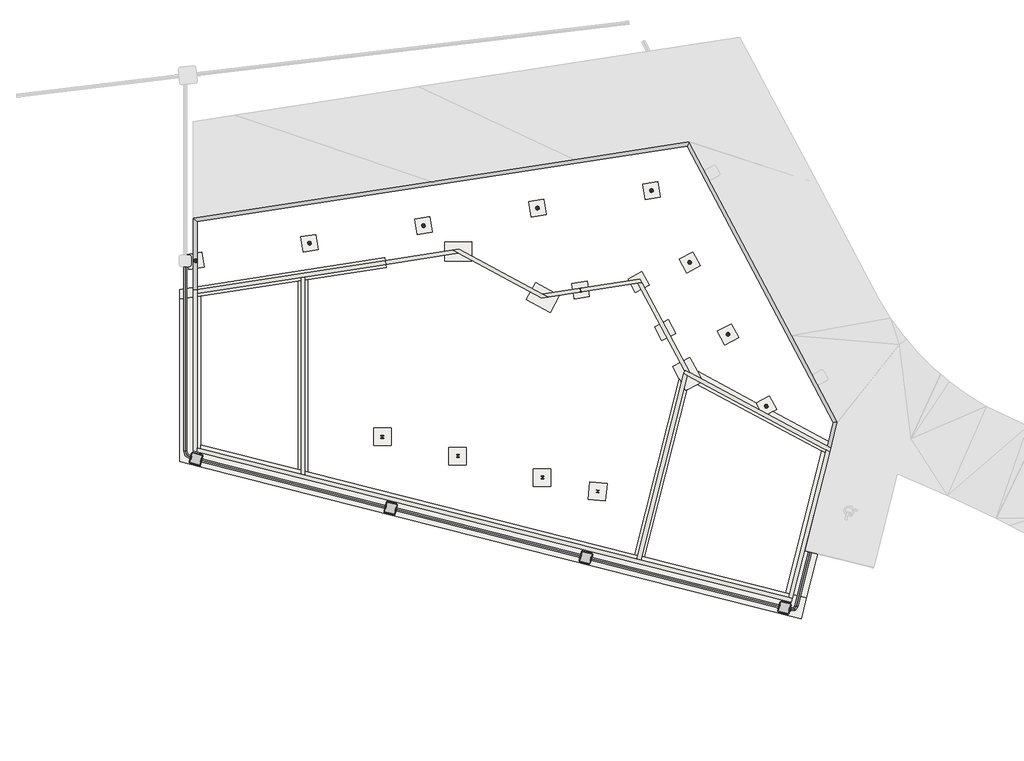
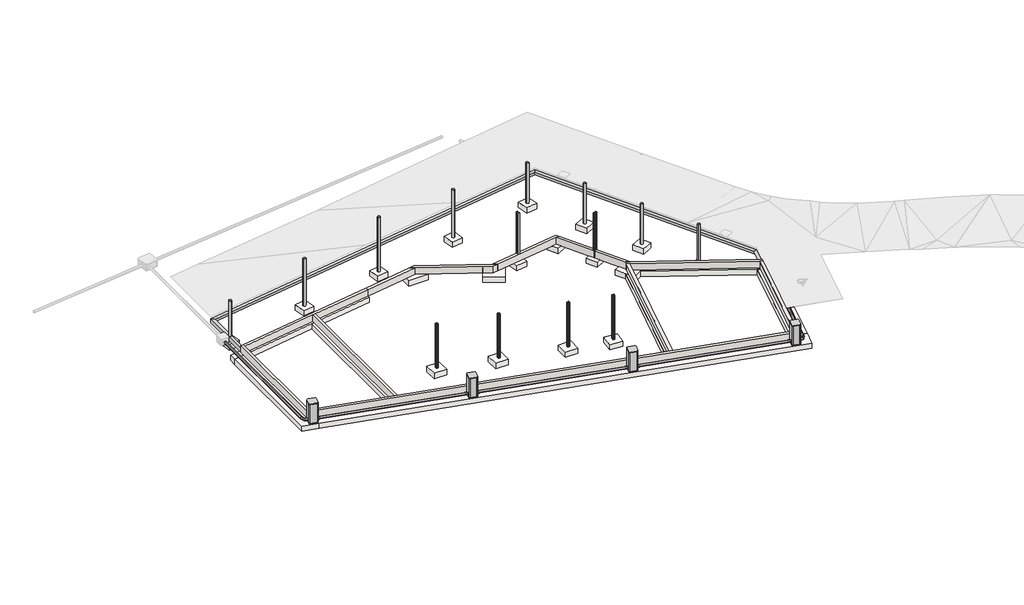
# One storey, part 1 of 2: 18 slabs, 14 columns, 11 walls, 7 footings, 6 pipe segments, 4 valves, 3 duct fittings, 2 proxies.
"""IFC4 building model written with IfcOpenShell, lengths in millimetres."""

from ifc_helpers import new_model, si_unit, point, frame, frame_2d, origin, place, context, project, spatial, polyline, circle_curve, trimmed, segment, composite_curve, outline, extrude, faceted_brep, transform, mapped, element, save
from components import he140a_3b6efd71, poteau_rond_193_7x4_mm_0e9dcb76, poteau_rond_193_7x4_mm_2a994011, poteau_rond_193_7x4_mm_6d145c25, poteau_rond_193_7x4_mm_c46b126e, poteau_rond_193_7x4_mm_b0dfd00d, poteau_rond_193_7x4_mm_703e1262, poteau_rond_193_7x4_mm_9448209f, poteau_rond_193_7x4_mm_29ad06c1, coude_45_coude_45_f8eaf21e, coude_45_coude_45_6452feed, regard_ep_600x600_4da5fc17

model = new_model("IFC4")

# Units and contexts
model_context = context("Model", 3, world=origin())
ifc_project = project(units=[si_unit("LENGTHUNIT", "METRE", prefix="MILLI")], contexts=[model_context])

# Site, building, storey
site = spatial("IfcSite", under=ifc_project)
building = spatial("IfcBuilding", under=site)
storey = spatial("IfcBuildingStorey", under=building, Name="-1 Soubassement", Elevation=869500.0)

# Proxies
placement = place(None, origin())
element("IfcBuildingElementProxy", 1, Name="Be1", ObjectType="Be1", at=placement, inside=storey, context=model_context, shape_type="Brep", body=[
    faceted_brep([(44960.4575686, 17870.5636973, 869800.0), (44960.4575686, 17870.5636973, 869500.0), (19451.6644129, 13942.3479728, 869500.0), (19451.6644129, 13942.3479728, 869800.0), (44850.0979295, 17651.2113739, 869800.0), (19651.6644129, 13770.7893496, 869800.0), (44915.4424526, 17781.0910391, 869500.0), (19533.2433602, 13872.3701133, 869500.0), (52570.9656414, 3454.3381962, 869500.0), (52570.9656414, 3454.3381962, 869800.0), (52358.19355, 3428.9809375, 869800.0), (52484.1770252, 3443.9951039, 869500.0), (19451.6644129, 10255.6951004, 869500.0), (19533.2433602, 10255.6951004, 869500.0), (19651.6644129, 10255.6951004, 869800.0), (19451.6644129, 10255.6951004, 869800.0)], [[[0, 1, 2, 3]], [[4, 0, 3, 5]], [[6, 4, 5, 7]], [[1, 6, 7, 2]], [[8, 9, 10, 11]], [[9, 8, 1, 0]], [[10, 9, 0, 4]], [[11, 10, 4, 6]], [[8, 11, 6, 1]], [[12, 13, 14, 15]], [[3, 2, 12, 15]], [[5, 3, 15, 14]], [[7, 5, 14, 13]], [[2, 7, 13, 12]]]),
])
element("IfcBuildingElementProxy", 2, Name="Be1", ObjectType="Be1", at=placement, inside=storey, context=model_context, shape_type="Brep", body=[
    faceted_brep([(52231.1524024, 2115.1175773, 869500.0), (52231.1524024, 2115.1175773, 869800.0), (52037.2956754, 2164.3066963, 869800.0), (52152.0792638, 2135.1815601, 869500.0), (52570.9656414, 3454.3381962, 869500.0), (52484.1770252, 3443.9951039, 869500.0), (52358.19355, 3428.9809375, 869800.0), (52570.9656414, 3454.3381962, 869800.0)], [[[0, 1, 2, 3]], [[4, 5, 6, 7]], [[1, 0, 4, 7]], [[2, 1, 7, 6]], [[3, 2, 6, 5]], [[0, 3, 5, 4]]]),
])

# Columns
he140a_shape = he140a_3b6efd71(model_context)
element("IfcColumn", 3, ObjectType="H-Poutrelles-Poteau : HE140A", at=placement, inside=storey, context=model_context, shape_type="MappedRepresentation", body=[
    mapped(he140a_shape, transform((29175.6644129, 2696.782972, 0.0), x_axis=(1.0, 0.0, 0.0), y_axis=(0.0, 1.0, 0.0), z_axis=(0.0, 0.0, 1.0))),
])
element("IfcColumn", 4, ObjectType="H-Poutrelles-Poteau : HE140A", at=placement, inside=storey, context=model_context, shape_type="MappedRepresentation", body=[
    mapped(he140a_shape, transform((33060.1448853, 1717.4801284, 0.0), x_axis=(1.0, 0.0, 0.0), y_axis=(0.0, 1.0, 0.0), z_axis=(0.0, 0.0, 1.0))),
])
element("IfcColumn", 5, ObjectType="H-Poutrelles-Poteau : HE140A", at=placement, inside=storey, context=model_context, shape_type="MappedRepresentation", body=[
    mapped(he140a_shape, transform((37414.7284051, 613.1844085, 0.0), x_axis=(1.0, 0.0, 0.0), y_axis=(0.0, 1.0, 0.0), z_axis=(0.0, 0.0, 1.0))),
])
element("IfcColumn", 6, ObjectType="H-Poutrelles-Poteau : HE140A", at=placement, inside=storey, context=model_context, shape_type="MappedRepresentation", body=[
    mapped(he140a_shape, transform((40243.2309652, -105.9787095, 0.0), x_axis=(0.9947332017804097, -0.10249808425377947, 0.0), y_axis=(0.10249808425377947, 0.9947332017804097, 0.0), z_axis=(0.0, 0.0, 1.0))),
])
element("IfcColumn", 7, ObjectType="Poteau IPE : IPE200", at=placement, inside=storey, context=model_context, shape_type="SweptSolid", body=[
    extrude(outline(composite_curve([segment(polyline([(43817.5618656, 8186.294655), (43810.0568111, 8182.3041467), (43793.5314121, 8213.3839019)]), True, "CONTINUOUS"), segment(trimmed(circle_curve(frame_2d((43782.936041, 8207.7502432)), 12.0), [point((43793.5314121, 8213.3839019))], [point((43777.3023822, 8218.3456143))], True, "CARTESIAN"), True, "CONTINUOUS"), segment(polyline([(43777.3023822, 8218.3456143), (43636.9137149, 8143.6996358)]), True, "CONTINUOUS"), segment(trimmed(circle_curve(frame_2d((43642.5473737, 8133.1042647)), 12.0), [point((43636.9137149, 8143.6996358))], [point((43631.9520026, 8127.470606))], True, "CARTESIAN"), True, "CONTINUOUS"), segment(polyline([(43631.9520026, 8127.470606), (43648.4774016, 8096.3908507), (43640.972347, 8092.4003424), (43594.0251908, 8180.6951017), (43601.5302453, 8184.68561), (43618.0556443, 8153.6058547)]), True, "CONTINUOUS"), segment(trimmed(circle_curve(frame_2d((43628.6510154, 8159.2395135)), 12.0), [point((43618.0556443, 8153.6058547))], [point((43634.2846742, 8148.6441423))], True, "CARTESIAN"), True, "CONTINUOUS"), segment(polyline([(43634.2846742, 8148.6441423), (43774.6733415, 8223.2901208)]), True, "CONTINUOUS"), segment(trimmed(circle_curve(frame_2d((43769.0396827, 8233.8854919)), 12.0), [point((43774.6733415, 8223.2901208))], [point((43779.6350538, 8239.5191507))], True, "CARTESIAN"), True, "CONTINUOUS"), segment(polyline([(43779.6350538, 8239.5191507), (43763.1096548, 8270.598906), (43770.6147093, 8274.5894142), (43817.5618656, 8186.294655)]), True, "CONTINUOUS")], self_intersect=False)), frame((0.0, 0.0, 869500.0), z_axis=(0.0, 0.0, 1.0), x_axis=(1.0, 0.0, 0.0)), (0.0, 0.0, 1.0), 3383.9911035),
])
element("IfcColumn", 8, ObjectType="Poteau IPE : IPE200", at=placement, inside=storey, context=model_context, shape_type="SweptSolid", body=[
    extrude(outline(composite_curve([segment(polyline([(39397.6475726, 10354.8249676), (39398.9424216, 10346.4241721), (39364.1532447, 10341.0619739)]), True, "CONTINUOUS"), segment(trimmed(circle_curve(frame_2d((39365.9812668, 10329.2020272)), 12.0), [point((39364.1532447, 10341.0619739))], [point((39354.1213201, 10327.3740051))], True, "CARTESIAN"), True, "CONTINUOUS"), segment(polyline([(39354.1213201, 10327.3740051), (39378.3426129, 10170.2297116)]), True, "CONTINUOUS"), segment(trimmed(circle_curve(frame_2d((39390.2025596, 10172.0577337)), 12.0), [point((39378.3426129, 10170.2297116))], [point((39392.0305817, 10160.1977871))], True, "CARTESIAN"), True, "CONTINUOUS"), segment(polyline([(39392.0305817, 10160.1977871), (39426.8197586, 10165.5599852), (39428.1146076, 10157.1591896), (39329.2817186, 10141.9256722), (39327.9868696, 10150.3264677), (39362.7760465, 10155.6886659)]), True, "CONTINUOUS"), segment(trimmed(circle_curve(frame_2d((39360.9480244, 10167.5486126)), 12.0), [point((39362.7760465, 10155.6886659))], [point((39372.8079711, 10169.3766347))], True, "CARTESIAN"), True, "CONTINUOUS"), segment(polyline([(39372.8079711, 10169.3766347), (39348.5866783, 10326.5209281)]), True, "CONTINUOUS"), segment(trimmed(circle_curve(frame_2d((39336.7267316, 10324.692906)), 12.0), [point((39348.5866783, 10326.5209281))], [point((39334.8987095, 10336.5528527))], True, "CARTESIAN"), True, "CONTINUOUS"), segment(polyline([(39334.8987095, 10336.5528527), (39300.1095326, 10331.1906546), (39298.8146836, 10339.5914501), (39397.6475726, 10354.8249676)]), True, "CONTINUOUS")], self_intersect=False)), frame((0.0, 0.0, 869500.0), z_axis=(0.0, 0.0, 1.0), x_axis=(1.0, 0.0, 0.0)), (0.0, 0.0, 1.0), 3665.7781761),
])
poteau_rond_193_7x4_mm_shape = poteau_rond_193_7x4_mm_0e9dcb76(model_context)
element("IfcColumn", 9, ObjectType="Poteau RO (EN 10219-2) : Poteau rond 193.7x4 mm", at=placement, inside=storey, context=model_context, shape_type="MappedRepresentation", body=[
    mapped(poteau_rond_193_7x4_mm_shape, transform((31287.7222046, 13560.6335932, 0.0), x_axis=(0.9883288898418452, 0.15233517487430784, 0.0), y_axis=(-0.15233517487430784, 0.9883288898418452, 0.0), z_axis=(0.0, 0.0, 1.0))),
])
poteau_rond_193_7x4_mm_2_shape = poteau_rond_193_7x4_mm_2a994011(model_context)
element("IfcColumn", 10, ObjectType="Poteau RO (EN 10219-2) : Poteau rond 193.7x4 mm", at=placement, inside=storey, context=model_context, shape_type="MappedRepresentation", body=[
    mapped(poteau_rond_193_7x4_mm_2_shape, transform((37146.2584628, 14463.6337529, 0.0), x_axis=(0.9883288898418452, 0.15233517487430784, 0.0), y_axis=(-0.15233517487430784, 0.9883288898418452, 0.0), z_axis=(0.0, 0.0, 1.0))),
])
poteau_rond_193_7x4_mm_3_shape = poteau_rond_193_7x4_mm_6d145c25(model_context)
element("IfcColumn", 11, ObjectType="Poteau RO (EN 10219-2) : Poteau rond 193.7x4 mm", at=placement, inside=storey, context=model_context, shape_type="MappedRepresentation", body=[
    mapped(poteau_rond_193_7x4_mm_3_shape, transform((25429.1859465, 12657.6334334, 0.0), x_axis=(0.9883288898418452, 0.15233517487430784, 0.0), y_axis=(-0.15233517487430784, 0.9883288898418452, 0.0), z_axis=(0.0, 0.0, 1.0))),
])
poteau_rond_193_7x4_mm_4_shape = poteau_rond_193_7x4_mm_c46b126e(model_context)
element("IfcColumn", 12, ObjectType="Poteau RO (EN 10219-2) : Poteau rond 193.7x4 mm", at=placement, inside=storey, context=model_context, shape_type="MappedRepresentation", body=[
    mapped(poteau_rond_193_7x4_mm_4_shape, transform((19570.6496883, 11754.6332737, 0.0), x_axis=(0.9883288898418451, 0.1523351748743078, 0.0), y_axis=(-0.1523351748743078, 0.9883288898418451, 0.0), z_axis=(0.0, 0.0, 1.0))),
])
poteau_rond_193_7x4_mm_5_shape = poteau_rond_193_7x4_mm_b0dfd00d(model_context)
element("IfcColumn", 13, ObjectType="Poteau RO (EN 10219-2) : Poteau rond 193.7x4 mm", at=placement, inside=storey, context=model_context, shape_type="MappedRepresentation", body=[
    mapped(poteau_rond_193_7x4_mm_5_shape, transform((43004.678691, 15367.3866989, 0.0), x_axis=(0.9883288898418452, 0.15233517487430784, 0.0), y_axis=(-0.15233517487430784, 0.9883288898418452, 0.0), z_axis=(0.0, 0.0, 1.0))),
])
poteau_rond_193_7x4_mm_6_shape = poteau_rond_193_7x4_mm_703e1262(model_context)
element("IfcColumn", 14, ObjectType="Poteau RO (EN 10219-2) : Poteau rond 193.7x4 mm", at=placement, inside=storey, context=model_context, shape_type="MappedRepresentation", body=[
    mapped(poteau_rond_193_7x4_mm_6_shape, transform((44975.6424285, 11669.9466679, 0.0), x_axis=(0.8829475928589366, 0.46947156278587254, 0.0), y_axis=(-0.46947156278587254, 0.8829475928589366, 0.0), z_axis=(0.0, 0.0, 1.0))),
])
poteau_rond_193_7x4_mm_7_shape = poteau_rond_193_7x4_mm_9448209f(model_context)
element("IfcColumn", 15, ObjectType="Poteau RO (EN 10219-2) : Poteau rond 193.7x4 mm", at=placement, inside=storey, context=model_context, shape_type="MappedRepresentation", body=[
    mapped(poteau_rond_193_7x4_mm_7_shape, transform((48909.773939, 4270.9214179, 0.0), x_axis=(0.8829475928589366, 0.46947156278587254, 0.0), y_axis=(-0.46947156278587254, 0.8829475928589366, 0.0), z_axis=(0.0, 0.0, 1.0))),
])
poteau_rond_193_7x4_mm_8_shape = poteau_rond_193_7x4_mm_29ad06c1(model_context)
element("IfcColumn", 16, ObjectType="Poteau RO (EN 10219-2) : Poteau rond 193.7x4 mm", at=placement, inside=storey, context=model_context, shape_type="MappedRepresentation", body=[
    mapped(poteau_rond_193_7x4_mm_8_shape, transform((46942.7081837, 7970.4340429, 0.0), x_axis=(0.8829475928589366, 0.46947156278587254, 0.0), y_axis=(-0.46947156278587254, 0.8829475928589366, 0.0), z_axis=(0.0, 0.0, 1.0))),
])

# Duct fittings
coude_45_coude_45_shape = coude_45_coude_45_f8eaf21e(model_context)
element("IfcDuctFitting", 17, ObjectType="coude 45 : Coude 45", at=placement, inside=storey, context=model_context, shape_type="MappedRepresentation", body=[
    mapped(coude_45_coude_45_shape, transform((50314.3966614, -6492.3867088, 869680.0), x_axis=(0.9692836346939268, -0.24594559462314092, 0.0), y_axis=(0.24594559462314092, 0.9692836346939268, 0.0), z_axis=(0.0, 0.0, 1.0))),
])
element("IfcDuctFitting", 18, ObjectType="coude 45 : Coude 45", at=placement, inside=storey, context=model_context, shape_type="MappedRepresentation", body=[
    mapped(coude_45_coude_45_shape, transform((50670.329062, -6280.5259019, 869680.0), x_axis=(0.8592968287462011, 0.5114772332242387, 0.0), y_axis=(-0.5114772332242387, 0.8592968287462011, 0.0), z_axis=(0.0, 0.0, 1.0))),
])
coude_45_coude_45_2_shape = coude_45_coude_45_6452feed(model_context)
element("IfcDuctFitting", 19, ObjectType="coude 45 : Coude 45", at=placement, inside=storey, context=model_context, shape_type="MappedRepresentation", body=[
    mapped(coude_45_coude_45_2_shape, transform((18895.9707802, 1587.4783835, 869680.0), x_axis=(0.0, -1.0, 0.0), y_axis=(1.0, 0.0, 0.0), z_axis=(0.0, 0.0, 1.0))),
])

# Footings
element("IfcFooting", 20, ObjectType="SF1", at=placement, inside=storey, context=model_context, shape_type="SweptSolid", body=[
    extrude(outline(polyline([(25346.5091129, 890.7809716), (24846.5091129, 1017.2595383), (24846.5091129, 10720.3057169), (25346.5091129, 10797.3727623), (25346.5091129, 890.7809716)])), frame((0.0, 0.0, 869100.0), z_axis=(0.0, 0.0, 1.0), x_axis=(1.0, 0.0, 0.0)), (0.0, 0.0, 1.0), 400.0),
])
element("IfcFooting", 21, ObjectType="SF1", at=placement, inside=storey, context=model_context, shape_type="SweptSolid", body=[
    extrude(outline(polyline([(42640.1594433, -3483.7712402), (42155.427213, -3361.1547648), (44446.4681549, 5667.949801), (44757.7704584, 5082.47532), (44822.4861687, 5116.8852735), (42640.1594433, -3483.7712402)])), frame((0.0, 0.0, 869100.0), z_axis=(0.0, 0.0, 1.0), x_axis=(1.0, 0.0, 0.0)), (0.0, 0.0, 1.0), 400.0),
])
element("IfcFooting", 22, ObjectType="SF1", at=placement, inside=storey, context=model_context, shape_type="Brep", body=[
    faceted_brep([(29290.7761581, 11911.223244, 869100.0), (29290.7761581, 11911.223244, 869500.0), (29366.9437455, 11417.0587991, 869500.0), (29366.9437455, 11417.0587991, 869100.0), (18751.6644129, 10286.786837, 869500.0), (18751.6644129, 9780.8823703, 869500.0), (19851.6644129, 9950.4298702, 869500.0), (24846.5091129, 10720.3057169, 869500.0), (25346.5091129, 10797.3727623, 869500.0), (18751.6644129, 10286.786837, 869100.0), (25346.5091129, 10797.3727623, 869100.0), (24846.5091129, 10720.3057169, 869100.0), (19851.6644129, 9950.4298702, 869100.0), (18751.6644129, 9780.8823703, 869100.0)], [[[0, 1, 2, 3]], [[1, 4, 5, 6, 7, 8, 2]], [[1, 0, 9, 4]], [[0, 3, 10, 11, 12, 13, 9]], [[3, 2, 8, 7, 6, 5, 13, 12, 11, 10]], [[5, 4, 9, 13]]]),
])
element("IfcFooting", 23, ObjectType="SF2", at=placement, inside=storey, context=model_context, shape_type="Brep", body=[
    faceted_brep([(18751.6644129, 1424.3466148, 869500.0), (19851.6644129, 1146.0937682, 869500.0), (19851.6644129, 2280.7411349, 869500.0), (19851.6644129, 9950.4298702, 869500.0), (18751.6644129, 9780.8823703, 869500.0), (19851.6644129, 1146.0937682, 869100.0), (19851.6644129, 2280.7411349, 869100.0), (19851.6644129, 9950.4298702, 869100.0), (18751.6644129, 1424.3466148, 869100.0), (18751.6644129, 9780.8823703, 869100.0)], [[[0, 1, 2, 3, 4]], [[1, 5, 6, 7, 3, 2]], [[5, 8, 9, 7, 6]], [[8, 0, 4, 9]], [[1, 0, 8, 5]], [[4, 3, 7, 9]]]),
])
element("IfcFooting", 24, ObjectType="SF2", at=placement, inside=storey, context=model_context, shape_type="Brep", body=[
    faceted_brep([(50705.4338069, -6658.5872891, 869500.0), (50975.9740341, -5592.3750027, 869500.0), (49909.5631274, -5322.6187568, 869500.0), (42640.1594433, -3483.7712402, 869500.0), (42155.427213, -3361.1547648, 869500.0), (25346.5091129, 890.7809716, 869500.0), (24846.5091129, 1017.2595383, 869500.0), (19851.6644129, 2280.7411349, 869500.0), (19851.6644129, 1146.0937682, 869500.0), (50705.4338069, -6658.5872891, 869100.0), (19851.6644129, 1146.0937682, 869100.0), (50975.9740341, -5592.3750027, 869100.0), (19851.6644129, 2280.7411349, 869100.0), (24846.5091129, 1017.2595383, 869100.0), (25346.5091129, 890.7809716, 869100.0), (42155.427213, -3361.1547648, 869100.0), (42640.1594433, -3483.7712402, 869100.0), (49909.5631274, -5322.6187568, 869100.0)], [[[0, 1, 2, 3, 4, 5, 6, 7, 8]], [[9, 0, 8, 10]], [[11, 9, 10, 12, 13, 14, 15, 16, 17]], [[1, 11, 17, 16, 15, 14, 13, 12, 7, 6, 5, 4, 3, 2]], [[1, 0, 9, 11]], [[8, 7, 12, 10]]]),
])
element("IfcFooting", 25, ObjectType="SF2", at=placement, inside=storey, context=model_context, shape_type="SweptSolid", body=[
    extrude(outline(polyline([(51760.1839718, 1970.7686334), (52758.9427337, 1434.3919712), (50975.9740341, -5592.3750027), (49909.5631274, -5322.6187568), (51760.1839718, 1970.7686334)])), frame((0.0, 0.0, 869100.0), z_axis=(0.0, 0.0, 1.0), x_axis=(1.0, 0.0, 0.0)), (0.0, 0.0, 1.0), 400.0),
])
element("IfcFooting", 26, ObjectType="SF3", at=placement, inside=storey, context=model_context, shape_type="Brep", body=[
    faceted_brep([(52758.9427337, 1434.3919712, 869500.0), (52911.0276628, 2033.766126, 869500.0), (49251.0306937, 3999.3428327, 869500.0), (48744.383527, 3729.9537556, 869500.0), (48368.8062767, 4436.3118299, 869500.0), (48403.2610956, 4454.6317821, 869500.0), (45353.2321152, 6092.6292911, 869500.0), (45640.7180513, 5551.9468828, 869500.0), (45364.9196189, 5405.302255, 869500.0), (51760.1839718, 1970.7686334, 869500.0), (52911.0276628, 2033.766126, 869100.0), (49251.0306937, 3999.3428327, 869100.0), (48403.2610956, 4454.6317821, 869100.0), (45353.2321152, 6092.6292911, 869100.0), (52758.9427337, 1434.3919712, 869100.0), (51760.1839718, 1970.7686334, 869100.0), (45364.9196189, 5405.302255, 869100.0), (45640.7180513, 5551.9468828, 869100.0), (48368.8062767, 4436.3118299, 869100.0), (48744.383527, 3729.9537556, 869100.0)], [[[0, 1, 2, 3, 4, 5, 6, 7, 8, 9]], [[1, 10, 11, 2]], [[5, 12, 13, 6]], [[10, 14, 15, 16, 17, 13, 12, 18, 19, 11]], [[14, 0, 9, 8, 16, 15]], [[1, 0, 14, 10]], [[4, 18, 12, 5]], [[18, 4, 3, 19]], [[19, 3, 2, 11]], [[7, 17, 16, 8]], [[17, 7, 6, 13]]]),
])

# Pipe segments
element("IfcPipeSegment", 27, ObjectType="Canalisation EP", at=placement, inside=storey, context=model_context, shape_type="SweptSolid", body=[
    extrude(outline(composite_curve([segment(trimmed(circle_curve(frame_2d((869680.0, 19044.8996541)), 80.0), [point((869680.0, 18964.8996541))], [point((869600.0, 19044.8996541))], False, "CARTESIAN"), True, "CONTINUOUS"), segment(trimmed(circle_curve(frame_2d((869680.0, 19044.8996541)), 80.0), [point((869600.0, 19044.8996541))], [point((869680.0, 19124.8996541))], False, "CARTESIAN"), True, "CONTINUOUS"), segment(trimmed(circle_curve(frame_2d((869680.0, 19044.8996541)), 80.0), [point((869680.0, 19124.8996541))], [point((869760.0, 19044.8996541))], False, "CARTESIAN"), True, "CONTINUOUS"), segment(trimmed(circle_curve(frame_2d((869680.0, 19044.8996541)), 80.0), [point((869760.0, 19044.8996541))], [point((869680.0, 18964.8996541))], False, "CARTESIAN"), True, "CONTINUOUS")], self_intersect=False)), frame((0.0, 1978.1211967, 0.0), z_axis=(0.0, 1.0, 0.0), x_axis=(0.0, 0.0, 1.0)), (0.0, 0.0, 1.0), 9476.512077),
])
element("IfcPipeSegment", 28, ObjectType="Canalisation EP", at=placement, inside=storey, context=model_context, shape_type="SweptSolid", body=[
    extrude(outline(composite_curve([segment(trimmed(circle_curve(frame_2d((0.0, -80.0)), 80.0), [point((-80.0, -80.0))], [point((0.0, 0.0))], False, "CARTESIAN"), True, "CONTINUOUS"), segment(trimmed(circle_curve(frame_2d((0.0, -80.0)), 80.0), [point((0.0, 0.0))], [point((80.0, -80.0))], False, "CARTESIAN"), True, "CONTINUOUS"), segment(trimmed(circle_curve(frame_2d((0.0, -80.0)), 80.0), [point((80.0, -80.0))], [point((0.0, -160.0))], False, "CARTESIAN"), True, "CONTINUOUS"), segment(trimmed(circle_curve(frame_2d((0.0, -80.0)), 80.0), [point((0.0, -160.0))], [point((-80.0, -80.0))], False, "CARTESIAN"), True, "CONTINUOUS")], self_intersect=False)), frame((39346.8459058, -3431.3414769, 869600.0), z_axis=(-0.9694641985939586, 0.24523288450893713, 0.0), x_axis=(0.24523288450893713, 0.9694641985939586, 0.0)), (0.0, 0.0, 1.0), 9746.1142553),
])
element("IfcPipeSegment", 29, ObjectType="Canalisation EP", at=placement, inside=storey, context=model_context, shape_type="SweptSolid", body=[
    extrude(outline(composite_curve([segment(trimmed(circle_curve(frame_2d((0.0, -80.0)), 80.0), [point((-80.0, -80.0))], [point((0.0, 0.0))], False, "CARTESIAN"), True, "CONTINUOUS"), segment(trimmed(circle_curve(frame_2d((0.0, -80.0)), 80.0), [point((0.0, 0.0))], [point((80.0, -80.0))], False, "CARTESIAN"), True, "CONTINUOUS"), segment(trimmed(circle_curve(frame_2d((0.0, -80.0)), 80.0), [point((80.0, -80.0))], [point((0.0, -160.0))], False, "CARTESIAN"), True, "CONTINUOUS"), segment(trimmed(circle_curve(frame_2d((0.0, -80.0)), 80.0), [point((0.0, -160.0))], [point((-80.0, -80.0))], False, "CARTESIAN"), True, "CONTINUOUS")], self_intersect=False)), frame((49552.9259505, -6013.0422272, 869600.0), z_axis=(-0.9694641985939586, 0.24523288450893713, 0.0), x_axis=(0.24523288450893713, 0.9694641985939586, 0.0)), (0.0, 0.0, 1.0), 9927.5471333),
])
element("IfcPipeSegment", 30, ObjectType="Canalisation EP", at=placement, inside=storey, context=model_context, shape_type="SweptSolid", body=[
    extrude(outline(composite_curve([segment(trimmed(circle_curve(frame_2d((0.0, -80.0)), 80.0), [point((-79.9999999, -80.0))], [point((0.0, 0.0))], False, "CARTESIAN"), True, "CONTINUOUS"), segment(trimmed(circle_curve(frame_2d((0.0, -80.0)), 80.0), [point((0.0, 0.0))], [point((80.0, -80.0))], False, "CARTESIAN"), True, "CONTINUOUS"), segment(trimmed(circle_curve(frame_2d((0.0, -80.0)), 80.0), [point((80.0, -80.0))], [point((0.0, -160.0))], False, "CARTESIAN"), True, "CONTINUOUS"), segment(trimmed(circle_curve(frame_2d((0.0, -80.0)), 80.0), [point((0.0, -160.0))], [point((-79.9999999, -80.0))], False, "CARTESIAN"), True, "CONTINUOUS")], self_intersect=False)), frame((50451.9821457, -6011.4527081, 869600.0), z_axis=(0.24594559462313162, 0.9692836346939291, 0.0), x_axis=(0.9692836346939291, -0.24594559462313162, 0.0)), (0.0, 0.0, 1.0), 9754.8031577),
])
element("IfcPipeSegment", 31, ObjectType="Canalisation EP", at=placement, inside=storey, context=model_context, shape_type="SweptSolid", body=[
    extrude(outline(composite_curve([segment(trimmed(circle_curve(frame_2d((0.0, -80.0)), 80.0), [point((-80.0, -80.0))], [point((0.0, 0.0))], False, "CARTESIAN"), True, "CONTINUOUS"), segment(trimmed(circle_curve(frame_2d((0.0, -80.0)), 80.0), [point((0.0, 0.0))], [point((80.0, -80.0))], False, "CARTESIAN"), True, "CONTINUOUS"), segment(trimmed(circle_curve(frame_2d((0.0, -80.0)), 80.0), [point((80.0, -80.0))], [point((0.0, -160.0))], False, "CARTESIAN"), True, "CONTINUOUS"), segment(trimmed(circle_curve(frame_2d((0.0, -80.0)), 80.0), [point((0.0, -160.0))], [point((-80.0, -80.0))], False, "CARTESIAN"), True, "CONTINUOUS")], self_intersect=False)), frame((50181.979428, -6172.1657916, 869600.0), z_axis=(-0.9694641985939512, 0.24523288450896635, 0.0), x_axis=(0.24523288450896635, 0.9694641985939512, 0.0)), (0.0, 0.0, 1.0), 48.8671562),
])
element("IfcPipeSegment", 32, ObjectType="Canalisation EP", at=placement, inside=storey, context=model_context, shape_type="SweptSolid", body=[
    extrude(outline(composite_curve([segment(trimmed(circle_curve(frame_2d((0.0, -80.0)), 80.0), [point((-80.0, -80.0))], [point((0.0, 0.0))], False, "CARTESIAN"), True, "CONTINUOUS"), segment(trimmed(circle_curve(frame_2d((0.0, -80.0)), 80.0), [point((0.0, 0.0))], [point((80.0, -80.0))], False, "CARTESIAN"), True, "CONTINUOUS"), segment(trimmed(circle_curve(frame_2d((0.0, -80.0)), 80.0), [point((80.0, -80.0))], [point((0.0, -160.0))], False, "CARTESIAN"), True, "CONTINUOUS"), segment(trimmed(circle_curve(frame_2d((0.0, -80.0)), 80.0), [point((0.0, -160.0))], [point((-80.0, -80.0))], False, "CARTESIAN"), True, "CONTINUOUS")], self_intersect=False)), frame((29315.9095174, -893.3249847, 869600.0), z_axis=(-0.9694641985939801, 0.2452328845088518, 0.0), x_axis=(0.2452328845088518, 0.9694641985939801, 0.0)), (0.0, 0.0, 1.0), 9720.0),
])

# Slabs
element("IfcSlab", 33, ObjectType="Base rectangulaire modifier : -M1-", at=placement, inside=storey, context=model_context, shape_type="SweptSolid", body=[
    extrude(outline(polyline([(25762.9084892, 13115.4707523), (25888.0560612, 12325.3200798), (25097.9053887, 12200.1725078), (24972.7578167, 12990.3231802), (25762.9084892, 13115.4707523)])), frame((0.0, 0.0, 869100.0), z_axis=(0.0, 0.0, 1.0), x_axis=(1.0, 0.0, 0.0)), (0.0, 0.0, 1.0), 400.0),
])
element("IfcSlab", 34, ObjectType="Base rectangulaire modifier : -M1-", at=placement, inside=storey, context=model_context, shape_type="SweptSolid", body=[
    extrude(outline(polyline([(31622.6657398, 14018.6591086), (31747.8133119, 13228.5084361), (30957.6626394, 13103.3608641), (30832.5150674, 13893.5115365), (31622.6657398, 14018.6591086)])), frame((0.0, 0.0, 869100.0), z_axis=(0.0, 0.0, 1.0), x_axis=(1.0, 0.0, 0.0)), (0.0, 0.0, 1.0), 400.0),
])
element("IfcSlab", 35, ObjectType="Base rectangulaire modifier : -M1-", at=placement, inside=storey, context=model_context, shape_type="SweptSolid", body=[
    extrude(outline(polyline([(37482.4229905, 14921.8474649), (37607.5705625, 14131.6967924), (36817.4198901, 14006.5492204), (36692.272318, 14796.6998928), (37482.4229905, 14921.8474649)])), frame((0.0, 0.0, 869100.0), z_axis=(0.0, 0.0, 1.0), x_axis=(1.0, 0.0, 0.0)), (0.0, 0.0, 1.0), 400.0),
])
element("IfcSlab", 36, ObjectType="Base rectangulaire modifier : -M1-", at=placement, inside=storey, context=model_context, shape_type="SweptSolid", body=[
    extrude(outline(polyline([(43342.1802412, 15825.0358212), (43467.3278132, 15034.8851487), (42677.1771407, 14909.7375767), (42552.0295687, 15699.8882491), (43342.1802412, 15825.0358212)])), frame((0.0, 0.0, 869100.0), z_axis=(0.0, 0.0, 1.0), x_axis=(1.0, 0.0, 0.0)), (0.0, 0.0, 1.0), 400.0),
])
element("IfcSlab", 37, ObjectType="Base rectangulaire modifier : -M1-", at=placement, inside=storey, context=model_context, shape_type="SweptSolid", body=[
    extrude(outline(polyline([(19903.1512385, 12212.282396), (20028.2988105, 11422.1317235), (19238.1481381, 11296.9841515), (19113.000566, 12087.1348239), (19903.1512385, 12212.282396)])), frame((0.0, 0.0, 869100.0), z_axis=(0.0, 0.0, 1.0), x_axis=(1.0, 0.0, 0.0)), (0.0, 0.0, 1.0), 400.0),
])
element("IfcSlab", 38, ObjectType="Base rectangulaire modifier : -M1-", at=placement, inside=storey, context=model_context, shape_type="SweptSolid", body=[
    extrude(outline(polyline([(45141.767519, 12209.5326008), (45517.3447692, 11503.1745265), (44810.9866949, 11127.5972763), (44435.4094447, 11833.9553506), (45141.767519, 12209.5326008)])), frame((0.0, 0.0, 869100.0), z_axis=(0.0, 0.0, 1.0), x_axis=(1.0, 0.0, 0.0)), (0.0, 0.0, 1.0), 400.0),
])
element("IfcSlab", 39, ObjectType="Base rectangulaire modifier : -M1-", at=placement, inside=storey, context=model_context, shape_type="SweptSolid", body=[
    extrude(outline(polyline([(47108.465935, 8510.7108405), (47484.0431852, 7804.3527662), (46777.6851109, 7428.775516), (46402.1078607, 8135.1335902), (47108.465935, 8510.7108405)])), frame((0.0, 0.0, 869100.0), z_axis=(0.0, 0.0, 1.0), x_axis=(1.0, 0.0, 0.0)), (0.0, 0.0, 1.0), 400.0),
])
element("IfcSlab", 40, ObjectType="Base rectangulaire modifier : -M1-", at=placement, inside=storey, context=model_context, shape_type="Brep", body=[
    faceted_brep([(49075.164351, 4811.8890801, 869500.0), (48403.2610956, 4454.6317821, 869500.0), (48368.8062767, 4436.3118299, 869500.0), (48744.383527, 3729.9537556, 869500.0), (49251.0306937, 3999.3428327, 869500.0), (49450.7416012, 4105.5310058, 869500.0), (49075.164351, 4811.8890801, 869100.0), (49450.7416012, 4105.5310058, 869100.0), (49251.0306937, 3999.3428327, 869100.0), (48744.383527, 3729.9537556, 869100.0), (48368.8062767, 4436.3118299, 869100.0), (48403.2610956, 4454.6317821, 869100.0)], [[[0, 1, 2, 3, 4, 5]], [[6, 7, 8, 9, 10, 11]], [[2, 1, 0, 6, 11, 10]], [[3, 2, 10, 9]], [[5, 4, 3, 9, 8, 7]], [[0, 5, 7, 6]]]),
])
element("IfcSlab", 41, ObjectType="Base rectangulaire modifier : -M1-", at=placement, inside=storey, context=model_context, shape_type="SweptSolid", body=[
    extrude(outline(polyline([(42517.5030698, 11201.4286975), (42893.0803201, 10495.0706232), (42186.7222458, 10119.493373), (41811.1449956, 10825.8514473), (42517.5030698, 11201.4286975)])), frame((0.0, 0.0, 869100.0), z_axis=(0.0, 0.0, 1.0), x_axis=(1.0, 0.0, 0.0)), (0.0, 0.0, 1.0), 400.0),
])
element("IfcSlab", 42, ObjectType="Base rectangulaire modifier : -M1-", at=placement, inside=storey, context=model_context, shape_type="SweptSolid", body=[
    extrude(outline(polyline([(43871.1839402, 8724.4625406), (44246.7611905, 8018.1044663), (43540.4031162, 7642.5272161), (43164.8258659, 8348.8852904), (43871.1839402, 8724.4625406)])), frame((0.0, 0.0, 869100.0), z_axis=(0.0, 0.0, 1.0), x_axis=(1.0, 0.0, 0.0)), (0.0, 0.0, 1.0), 400.0),
])
element("IfcSlab", 43, ObjectType="Base rectangulaire modifier : -M1-", at=placement, inside=storey, context=model_context, shape_type="SweptSolid", body=[
    extrude(outline(polyline([(39697.8621316, 10704.6409458), (39819.7302715, 9913.9778339), (39029.0671596, 9792.109694), (38907.1990197, 10582.7728059), (39697.8621316, 10704.6409458)])), frame((0.0, 0.0, 869100.0), z_axis=(0.0, 0.0, 1.0), x_axis=(1.0, 0.0, 0.0)), (0.0, 0.0, 1.0), 400.0),
])
element("IfcSlab", 44, ObjectType="Base rectangulaire modifier : -M2-", at=placement, inside=storey, context=model_context, shape_type="Brep", body=[
    faceted_brep([(44983.4578634, 6788.0735128, 869500.0), (44100.5102705, 6318.60195, 869500.0), (44446.4681549, 5667.949801, 869500.0), (44757.7704584, 5082.47532, 869500.0), (44822.4861687, 5116.8852735, 869500.0), (45364.9196189, 5405.302255, 869500.0), (45640.7180513, 5551.9468828, 869500.0), (45353.2321152, 6092.6292911, 869500.0), (44983.4578634, 6788.0735128, 869100.0), (45353.2321152, 6092.6292911, 869100.0), (45640.7180513, 5551.9468828, 869100.0), (45364.9196189, 5405.302255, 869100.0), (44822.4861687, 5116.8852735, 869100.0), (44757.7704584, 5082.47532, 869100.0), (44446.4681549, 5667.949801, 869100.0), (44100.5102705, 6318.60195, 869100.0)], [[[0, 1, 2, 3, 4, 5, 6, 7]], [[8, 9, 10, 11, 12, 13, 14, 15]], [[1, 0, 8, 15]], [[3, 2, 1, 15, 14, 13]], [[6, 5, 4, 3, 13, 12, 11, 10]], [[0, 7, 6, 10, 9, 8]]]),
])
element("IfcSlab", 45, ObjectType="Base rectangulaire modifier : -M2-", at=placement, inside=storey, context=model_context, shape_type="SweptSolid", body=[
    extrude(outline(polyline([(37051.5097457, 10640.7704795), (38278.53973, 9966.680413), (37797.0468254, 9090.2304243), (36570.0168411, 9764.3204907), (37051.5097457, 10640.7704795)])), frame((0.0, 0.0, 869100.0), z_axis=(0.0, 0.0, 1.0), x_axis=(1.0, 0.0, 0.0)), (0.0, 0.0, 1.0), 400.0),
])
element("IfcSlab", 46, ObjectType="Base rectangulaire modifier : -M2-", at=placement, inside=storey, context=model_context, shape_type="SweptSolid", body=[
    extrude(outline(polyline([(32378.957145, 12729.0127051), (33778.9470996, 12734.3161893), (33782.7353026, 11734.3233646), (32382.745348, 11729.0198804), (32378.957145, 12729.0127051)])), frame((0.0, 0.0, 869100.0), z_axis=(0.0, 0.0, 1.0), x_axis=(1.0, 0.0, 0.0)), (0.0, 0.0, 1.0), 400.0),
])
element("IfcSlab", 47, ObjectType="Base rectangulaire modifier : -M3-", at=placement, inside=storey, context=model_context, shape_type="SweptSolid", body=[
    extrude(outline(polyline([(29625.6644129, 3146.782972), (29625.6644129, 2246.782972), (28725.6644129, 2246.782972), (28725.6644129, 3146.782972), (29625.6644129, 3146.782972)])), frame((0.0, 0.0, 869100.0), z_axis=(0.0, 0.0, 1.0), x_axis=(1.0, 0.0, 0.0)), (0.0, 0.0, 1.0), 400.0),
])
element("IfcSlab", 48, ObjectType="Base rectangulaire modifier : -M3-", at=placement, inside=storey, context=model_context, shape_type="SweptSolid", body=[
    extrude(outline(polyline([(33485.1448853, 2167.4801284), (33485.1448853, 1267.4801284), (32585.1448853, 1267.4801284), (32585.1448853, 2167.4801284), (33485.1448853, 2167.4801284)])), frame((0.0, 0.0, 869100.0), z_axis=(0.0, 0.0, 1.0), x_axis=(1.0, 0.0, 0.0)), (0.0, 0.0, 1.0), 400.0),
])
element("IfcSlab", 49, ObjectType="Base rectangulaire modifier : -M3-", at=placement, inside=storey, context=model_context, shape_type="SweptSolid", body=[
    extrude(outline(polyline([(37839.8085257, 1062.5297299), (37839.8085257, 162.5297299), (36939.8085257, 162.5297299), (36939.8085257, 1062.5297299), (37839.8085257, 1062.5297299)])), frame((0.0, 0.0, 869100.0), z_axis=(0.0, 0.0, 1.0), x_axis=(1.0, 0.0, 0.0)), (0.0, 0.0, 1.0), 400.0),
])
element("IfcSlab", 50, ObjectType="Base rectangulaire modifier : -M3-", at=placement, inside=storey, context=model_context, shape_type="SweptSolid", body=[
    extrude(outline(polyline([(40736.9850439, 295.5270934), (40644.7367681, -599.7327882), (39749.4768865, -507.4845124), (39841.7251623, 387.7753692), (40736.9850439, 295.5270934)])), frame((0.0, 0.0, 869100.0), z_axis=(0.0, 0.0, 1.0), x_axis=(1.0, 0.0, 0.0)), (0.0, 0.0, 1.0), 400.0),
])

# Valves
regard_ep_600x600_shape = regard_ep_600x600_4da5fc17(model_context)
element("IfcValve", 51, ObjectType="Regard Eau pluviale 2 : Regard EP 600x600", at=placement, inside=storey, context=model_context, shape_type="MappedRepresentation", body=[
    mapped(regard_ep_600x600_shape, transform((49843.7652101, -6086.6120926, 0.0), x_axis=(-0.24523288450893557, -0.9694641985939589, 0.0), y_axis=(0.9694641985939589, -0.24523288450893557, 0.0), z_axis=(0.0, 0.0, 1.0))),
])
element("IfcValve", 52, ObjectType="Regard Eau pluviale 2 : Regard EP 600x600", at=placement, inside=storey, context=model_context, shape_type="MappedRepresentation", body=[
    mapped(regard_ep_600x600_shape, transform((39637.6851654, -3504.9113423, 0.0), x_axis=(-0.24523288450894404, -0.9694641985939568, 0.0), y_axis=(0.9694641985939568, -0.24523288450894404, 0.0), z_axis=(0.0, 0.0, 1.0))),
])
element("IfcValve", 53, ObjectType="Regard Eau pluviale 2 : Regard EP 600x600", at=placement, inside=storey, context=model_context, shape_type="MappedRepresentation", body=[
    mapped(regard_ep_600x600_shape, transform((29607.4978003, -967.7039, 0.0), x_axis=(-0.24523288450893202, -0.9694641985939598, 0.0), y_axis=(0.9694641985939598, -0.24523288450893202, 0.0), z_axis=(0.0, 0.0, 1.0))),
])
element("IfcValve", 54, ObjectType="Regard Eau pluviale 2 : Regard EP 600x600", at=placement, inside=storey, context=model_context, shape_type="MappedRepresentation", body=[
    mapped(regard_ep_600x600_shape, transform((19601.8782475, 1563.9085181, 0.0), x_axis=(-0.24523288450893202, -0.9694641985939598, 0.0), y_axis=(0.9694641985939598, -0.24523288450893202, 0.0), z_axis=(0.0, 0.0, 1.0))),
])

# Walls
element("IfcWall", 55, ObjectType="Lg1", at=placement, inside=storey, context=model_context, shape_type="Brep", body=[
    faceted_brep([(32778.8364038, 12297.0808987, 870000.0), (32778.8364038, 12297.0808987, 869500.0), (33072.3886421, 12139.9655194, 869500.0), (37369.7958563, 9839.9021003, 869500.0), (37369.7958563, 9839.9021003, 870000.0), (33072.3886421, 12139.9655194, 870000.0), (33107.9041536, 12347.8014572, 869500.0), (33107.9041536, 12347.8014572, 870000.0), (37405.3113678, 10047.7380381, 870000.0), (37698.863606, 9890.6226587, 870000.0), (37698.863606, 9890.6226587, 869500.0), (37405.3113678, 10047.7380381, 869500.0)], [[[0, 1, 2, 3, 4, 5]], [[6, 7, 8, 9, 10, 11]], [[3, 2, 1, 6, 11, 10]], [[0, 5, 4, 9, 8, 7]], [[4, 3, 10, 9]], [[0, 7, 6, 1]]]),
])
element("IfcWall", 56, ObjectType="Lg1", at=placement, inside=storey, context=model_context, shape_type="Brep", body=[
    faceted_brep([(37698.863606, 9890.6226587, 869500.0), (42307.1689882, 10600.919619, 869500.0), (42516.5252963, 10633.1885633, 869500.0), (42516.5252963, 10633.1885633, 870000.0), (42307.1689882, 10600.919619, 870000.0), (37698.863606, 9890.6226587, 870000.0), (37405.3113678, 10047.7380381, 869500.0), (37405.3113678, 10047.7380381, 870000.0), (42417.0778005, 10820.2221006, 870000.0), (42417.0778005, 10820.2221006, 869500.0)], [[[0, 1, 2, 3, 4, 5]], [[6, 7, 8, 9]], [[2, 1, 0, 6, 9]], [[5, 4, 3, 8, 7]], [[0, 5, 7, 6]], [[3, 2, 9, 8]]]),
])
element("IfcWall", 57, ObjectType="Lg1", at=placement, inside=storey, context=model_context, shape_type="SweptSolid", body=[
    extrude(outline(polyline([(33072.3886421, 12139.9655194), (29344.0934693, 11565.3081326), (29313.6264343, 11762.9739105), (32778.8364038, 12297.0808987), (33072.3886421, 12139.9655194)])), frame((0.0, 0.0, 869500.0), z_axis=(0.0, 0.0, 1.0), x_axis=(1.0, 0.0, 0.0)), (0.0, 0.0, 1.0), 500.0),
])
element("IfcWall", 58, ObjectType="Lg1", at=placement, inside=storey, context=model_context, shape_type="SweptSolid", body=[
    extrude(outline(polyline([(44707.4579944, 6086.6325606), (42307.1689882, 10600.919619), (42516.5252963, 10633.1885633), (44973.1281298, 6012.9905995), (44722.8740222, 6147.3878814), (44707.4579944, 6086.6325606)])), frame((0.0, 0.0, 869500.0), z_axis=(0.0, 0.0, 1.0), x_axis=(1.0, 0.0, 0.0)), (0.0, 0.0, 1.0), 500.0),
])
element("IfcWall", 59, ObjectType="Sbt1", at=placement, inside=storey, context=model_context, shape_type="Brep", body=[
    faceted_brep([(19451.6644129, 10242.9093606, 869500.0), (19451.6644129, 1969.3249458, 869500.0), (19451.6644129, 1969.3249458, 870000.0), (19451.6644129, 10242.9093606, 870000.0), (19651.6644129, 10273.7361788, 869500.0), (19651.6644129, 10273.7361788, 870000.0), (19651.6644129, 10071.3743921, 870000.0), (19651.6644129, 1918.7335191, 870000.0), (19651.6644129, 1918.7335191, 869500.0), (19651.6644129, 10071.3743921, 869500.0)], [[[0, 1, 2, 3]], [[4, 5, 6, 7, 8, 9]], [[1, 0, 4, 9, 8]], [[3, 2, 7, 6, 5]], [[0, 3, 5, 4]], [[2, 1, 8, 7]]]),
])
element("IfcWall", 60, ObjectType="Sbt1", at=placement, inside=storey, context=model_context, shape_type="SweptSolid", body=[
    extrude(outline(polyline([(25196.5091129, 10926.0239887), (25196.5091129, 722.4250204), (24996.5091129, 773.0164471), (24996.5091129, 10895.1971705), (25196.5091129, 10926.0239887)])), frame((0.0, 0.0, 869500.0), z_axis=(0.0, 0.0, 1.0), x_axis=(1.0, 0.0, 0.0)), (0.0, 0.0, 1.0), 500.0),
])
element("IfcWall", 61, ObjectType="Sbt1", at=placement, inside=storey, context=model_context, shape_type="SweptSolid", body=[
    extrude(outline(polyline([(42251.6577499, -3591.7964867), (44672.1790459, 5947.5964965), (44853.771548, 5850.073467), (42445.550642, -3640.8430769), (42251.6577499, -3591.7964867)])), frame((0.0, 0.0, 869500.0), z_axis=(0.0, 0.0, 1.0), x_axis=(1.0, 0.0, 0.0)), (0.0, 0.0, 1.0), 500.0),
])
element("IfcWall", 62, ObjectType="Sbt1", at=placement, inside=storey, context=model_context, shape_type="Brep", body=[
    faceted_brep([(19651.6644129, 10071.3743921, 869500.0), (24996.5091129, 10895.1971705, 869500.0), (25196.5091129, 10926.0239887, 869500.0), (29344.0934693, 11565.3081326, 869500.0), (29344.0934693, 11565.3081326, 870000.0), (25196.5091129, 10926.0239887, 870000.0), (24996.5091129, 10895.1971705, 870000.0), (19651.6644129, 10071.3743921, 870000.0), (19651.6644129, 10273.7361788, 869500.0), (19651.6644129, 10273.7361788, 870000.0), (29313.6264343, 11762.9739105, 870000.0), (29313.6264343, 11762.9739105, 869500.0)], [[[0, 1, 2, 3, 4, 5, 6, 7]], [[8, 9, 10, 11]], [[3, 2, 1, 0, 8, 11]], [[4, 3, 11, 10]], [[7, 6, 5, 4, 10, 9]], [[0, 7, 9, 8]]]),
])
element("IfcWall", 63, ObjectType="Sbt1", at=placement, inside=storey, context=model_context, shape_type="Brep", body=[
    faceted_brep([(44672.1790459, 5947.5964965, 869500.0), (44853.771548, 5850.073467, 869500.0), (52161.3902084, 1925.5661131, 869500.0), (52161.3902084, 1925.5661131, 870000.0), (44853.771548, 5850.073467, 870000.0), (44672.1790459, 5947.5964965, 870000.0), (52212.0851848, 2125.357498, 869500.0), (44973.1281298, 6012.9905995, 869500.0), (44722.8740222, 6147.3878814, 869500.0), (44722.8740222, 6147.3878814, 870000.0), (44973.1281298, 6012.9905995, 870000.0), (52212.0851848, 2125.357498, 870000.0), (44707.4579944, 6086.6325606, 869500.0), (44707.4579944, 6086.6325606, 870000.0)], [[[0, 1, 2, 3, 4, 5]], [[6, 7, 8, 9, 10, 11]], [[2, 1, 0, 12, 8, 7, 6]], [[5, 4, 3, 11, 10, 9, 13]], [[3, 2, 6, 11]], [[8, 12, 0, 5, 13, 9]]]),
])
element("IfcWall", 64, ObjectType="Sbt1", at=placement, inside=storey, context=model_context, shape_type="Brep", body=[
    faceted_brep([(50248.1597794, -5614.5687165, 869500.0), (50054.2668873, -5565.5221263, 869500.0), (19651.6644129, 2125.0330403, 869500.0), (19651.6644129, 2125.0330403, 870000.0), (50054.2668873, -5565.5221263, 870000.0), (50248.1597794, -5614.5687165, 870000.0), (50198.9706472, -5808.4254958, 869500.0), (50198.9706472, -5808.4254958, 870000.0), (19651.6644129, 1918.7335191, 870000.0), (19651.6644129, 1918.7335191, 869500.0)], [[[0, 1, 2, 3, 4, 5]], [[6, 7, 8, 9]], [[2, 1, 0, 6, 9]], [[5, 4, 3, 8, 7]], [[3, 2, 9, 8]], [[0, 5, 7, 6]]]),
])
element("IfcWall", 65, ObjectType="Sbt1", at=placement, inside=storey, context=model_context, shape_type="SweptSolid", body=[
    extrude(outline(polyline([(52161.3902084, 1925.5661131), (50248.1597794, -5614.5687165), (50054.2668873, -5565.5221263), (51979.7977063, 2023.0891426), (52161.3902084, 1925.5661131)])), frame((0.0, 0.0, 869500.0), z_axis=(0.0, 0.0, 1.0), x_axis=(1.0, 0.0, 0.0)), (0.0, 0.0, 1.0), 500.0),
])

save(model, "model.ifc")
